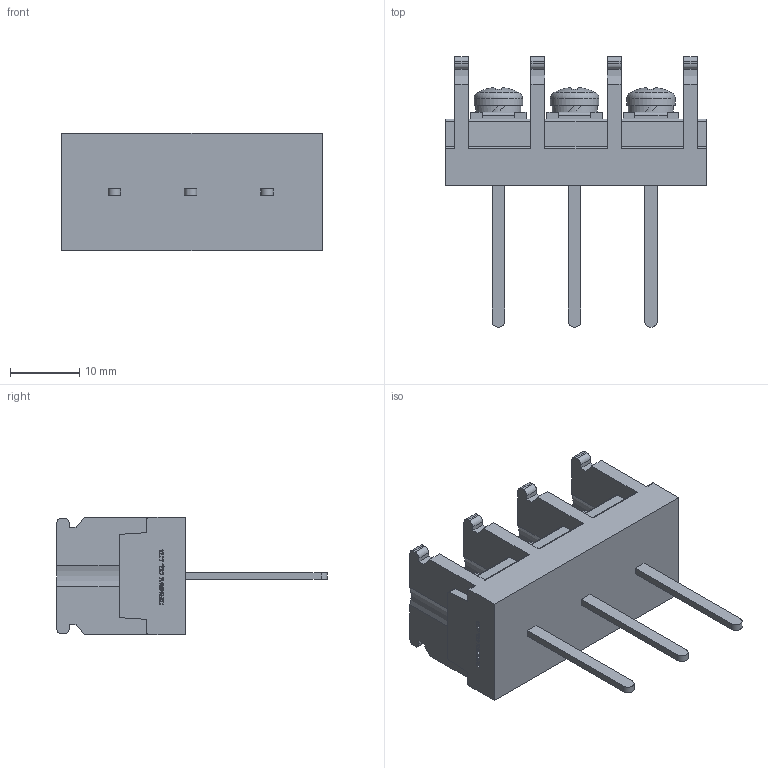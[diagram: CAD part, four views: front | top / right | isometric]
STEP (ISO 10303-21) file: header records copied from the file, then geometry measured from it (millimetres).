
FILE_DESCRIPTION(/* description */ ('Alibre Inc.'),/* implementation_level */ '2;1');
FILE_NAME(/* name */ 'export0',/* time_stamp */ '2015-10-20T07:43:52+09:00',/* author */ (''),/* organization */ (''),/* preprocessor_version */ 'ST-DEVELOPER v14',/* originating_system */ 'Alibre',/* authorisation */ '');
FILE_SCHEMA (('CONFIG_CONTROL_DESIGN'));
Length unit declared in the file: centimetre
Products named in the file (1): ID_1
Bounding box: 37.6 x 39 x 17 mm (x, y, z)
Volume: 7247.8 mm3; surface area: 4552.9 mm2
Topology: 1 solids, 1 shells, 633 faces, 1737 edges, 1155 vertices
Faces by surface type: plane 446, bspline 104, cylinder 62, cone 12, torus 6, sphere 3
Full cylindrical faces by diameter (mm): 4 x3, 6.5 x3, 7 x3
Entity records: 19536 total; most frequent: CARTESIAN_POINT 4510, ORIENTED_EDGE 3432, DIRECTION 2291, EDGE_CURVE 1716, VECTOR 1265, LINE 1265, VERTEX_POINT 1146, AXIS2_PLACEMENT_3D 731
